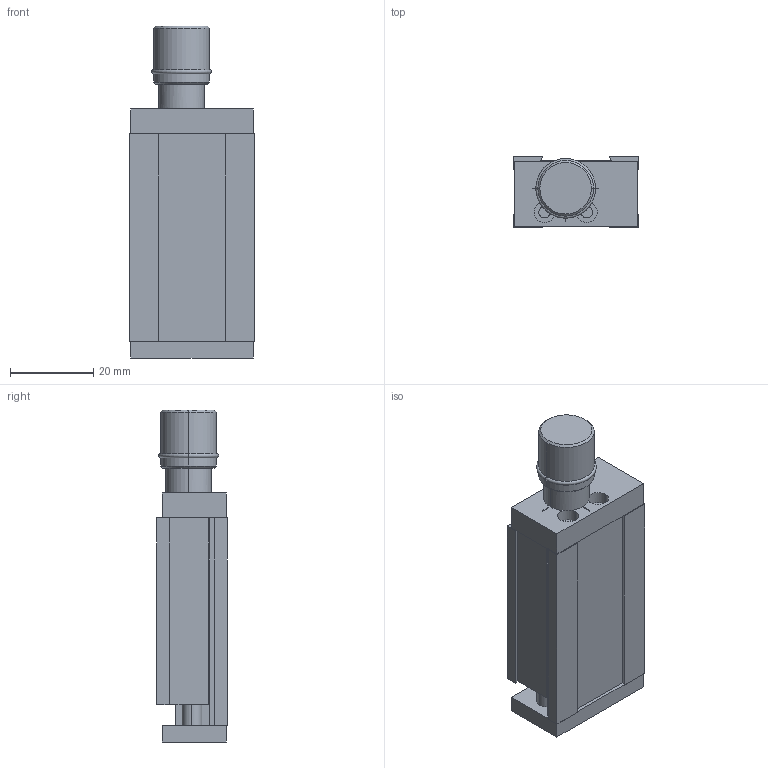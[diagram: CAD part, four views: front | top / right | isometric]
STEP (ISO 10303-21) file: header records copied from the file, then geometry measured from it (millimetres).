
FILE_DESCRIPTION (( 'STEP AP203' ), '1' );
FILE_NAME ('domiLINE 30 Hub 5.STEP', '2004-08-13T07:29:50', ( '' ), ( '' ), 'SwSTEP 2.0', 'SolidWorks 2004073', '' );
FILE_SCHEMA (( 'CONFIG_CONTROL_DESIGN' ));
Length unit declared in the file: millimetre
Products named in the file (3): domiLINE 30 Hub 5; Innenteil 30-+-D007616_ _L=50; Aussen 30 lght-+-D007617_ _Standard
Assembly tree (2 placements, depth 2):
  domiLINE 30 Hub 5
    Innenteil 30-+-D007616_ _L=50
    Aussen 30 lght-+-D007617_ _Standard
Bounding box: 30 x 17 x 80 mm (x, y, z)
Volume: 25547 mm3; surface area: 17113.2 mm2
Topology: 2 solids, 3 shells, 156 faces, 394 edges, 256 vertices
Faces by surface type: plane 102, cylinder 48, cone 4, torus 2
Entity records: 5003 total; most frequent: DIRECTION 826, CARTESIAN_POINT 811, ORIENTED_EDGE 788, EDGE_CURVE 394, LINE 284, VECTOR 284, AXIS2_PLACEMENT_3D 271, VERTEX_POINT 256
